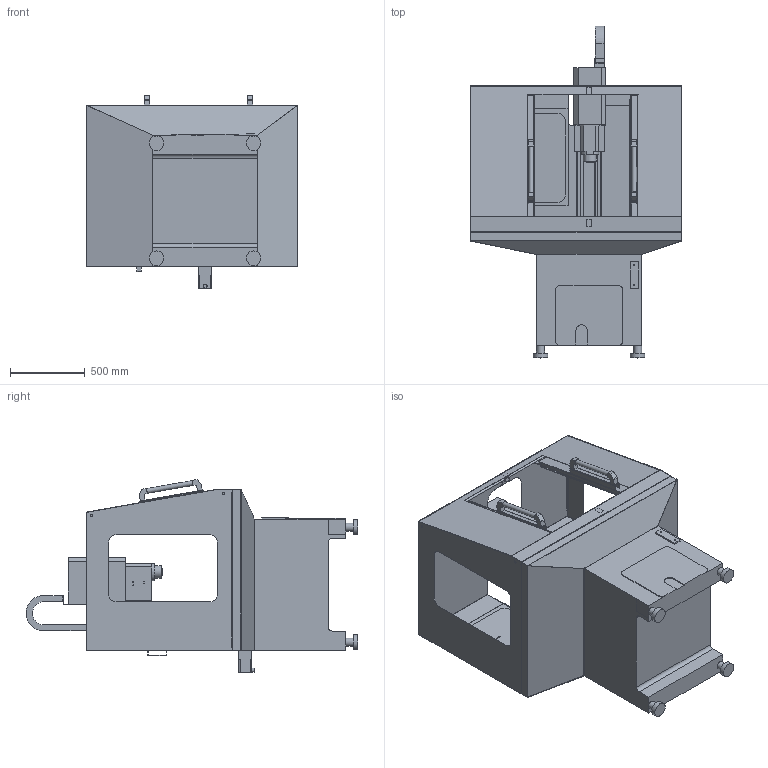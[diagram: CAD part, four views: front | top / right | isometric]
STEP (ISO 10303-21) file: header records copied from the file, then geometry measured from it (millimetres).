
FILE_DESCRIPTION (( 'STEP AP214' ), '1' );
FILE_NAME ('770M_MACHINE.STEP', '2018-07-03T13:32:05', ( '' ), ( '' ), 'SwSTEP 2.0', 'SolidWorks 2016', '' );
FILE_SCHEMA (( 'AUTOMOTIVE_DESIGN' ));
Length unit declared in the file: millimetre
Products named in the file (7): 770MSTAND; 770MSPINDLE; 770MSADDLE; 770MENCLOSURE; 770M_MACHINE; 770MTABLE; 770MMACHINEBASECASTING
Assembly tree (6 placements, depth 2):
  770M_MACHINE
    770MSTAND
    770MMACHINEBASECASTING
    770MSPINDLE
    770MSADDLE
    770MTABLE
    770MENCLOSURE
Bounding box: 1415 x 2222.32 x 1291.05 mm (x, y, z)
Volume: 383184813.5 mm3; surface area: 22759085.9 mm2
Topology: 25 solids, 40 shells, 1537 faces, 4191 edges, 2790 vertices
Faces by surface type: plane 1255, cylinder 278, bspline 4
Full cylindrical faces by diameter (mm): 3.3 x2, 4.2 x5, 5 x54, 6.8 x8, 10.5 x4, 14 x4, 15.5 x2, 18.5 x1, 19.05 x1, 26.8 x2, 32 x2, 40 x1, 45.5 x1, 54 x4, 85.7 x1, 98 x4
Entity records: 47801 total; most frequent: CARTESIAN_POINT 8489, ORIENTED_EDGE 8092, DIRECTION 7660, EDGE_CURVE 4046, VECTOR 3464, LINE 3464, VERTEX_POINT 2741, AXIS2_PLACEMENT_3D 2098
